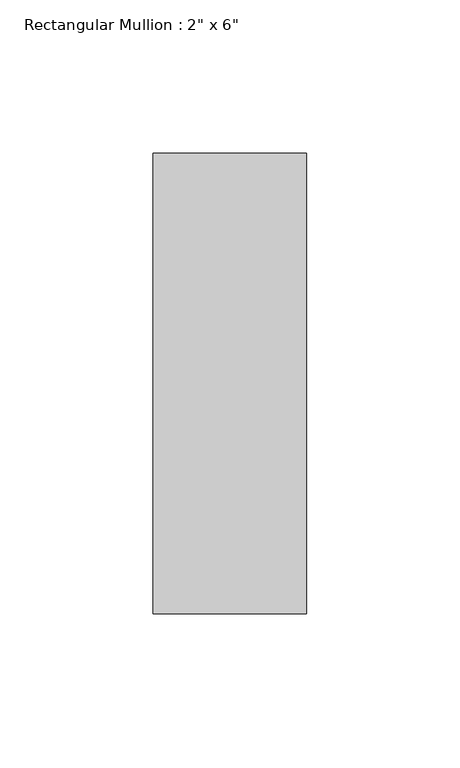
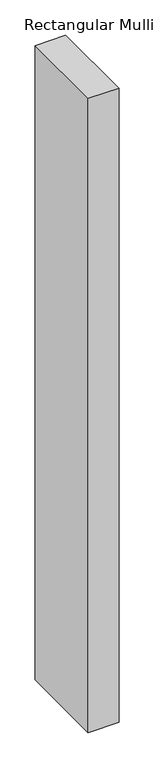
"""IFC4 building model written with IfcOpenShell, lengths in millimetres: member geometry."""

from ifc_helpers import new_model, si_unit, frame, origin, place, context, project, spatial, polyline, outline, extrude, source, transform, mapped, element, save


def member_38c7cac0(model_context):
    return source(origin(), model_context, "Body", "SweptSolid", [
        extrude(outline(polyline([(0.0, 0.0), (0.0, -150.0), (-50.0, -150.0), (-50.0, 0.0), (0.0, 0.0)])), frame((0.0, 0.0, -1094.9999997), z_axis=(0.0, 0.0, 1.0), x_axis=(1.0, 0.0, 0.0)), (0.0, 0.0, 1.0), 1094.9999997),
    ])


if __name__ == "__main__":
    model = new_model("IFC4")
    model_context = context("Model", 3, world=origin())
    ifc_project = project(units=[si_unit("LENGTHUNIT", "METRE", prefix="MILLI")], contexts=[model_context])
    site = spatial("IfcSite", under=ifc_project)
    building = spatial("IfcBuilding", under=site)
    placement = place(None, origin())
    member_shape = member_38c7cac0(model_context)
    element("IfcMember", 1, ObjectType="Rectangular Mullion : 2\" x 6\"", at=placement, inside=building, context=model_context, shape_type="MappedRepresentation", body=[
        mapped(member_shape, transform((0.0, 0.0, 0.0), x_axis=(1.0, 0.0, 0.0), y_axis=(0.0, 1.0, 0.0), z_axis=(0.0, 0.0, 1.0))),
    ])
    save(model, "model.ifc")
